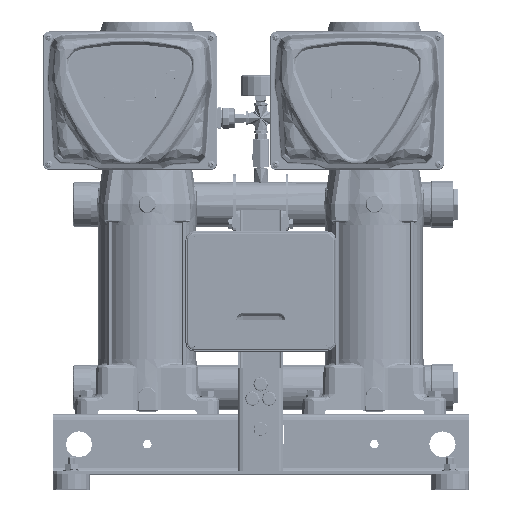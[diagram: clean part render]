
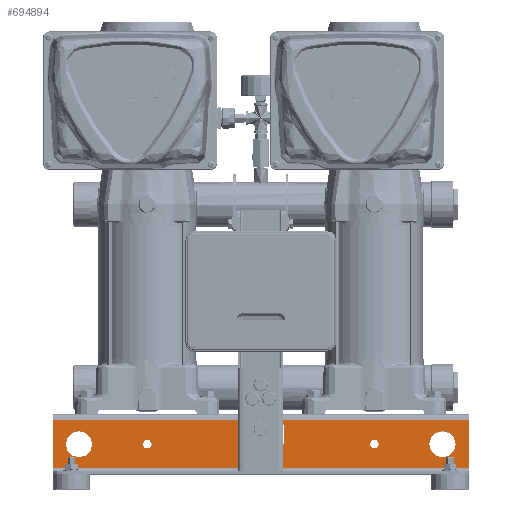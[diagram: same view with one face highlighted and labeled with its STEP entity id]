
A CAD part, top view. The second image highlights one B-rep face of the part: STEP entity #694894.
In plain terms, the highlighted planar face has unit normal (0, 0, 1) as drawn and (0, 0, -1) by its records, which use the part's own axes.
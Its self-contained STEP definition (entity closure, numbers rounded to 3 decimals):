
#688625=DIRECTION('',(1.,0.,0.));
#688626=VECTOR('',#688625,550.);
#688627=CARTESIAN_POINT('',(-275.,-8.,-150.));
#688628=LINE('',#688627,#688626);
#690855=DIRECTION('',(0.,1.,0.));
#690856=VECTOR('',#690855,64.);
#690857=CARTESIAN_POINT('',(-275.,-72.,-150.));
#690858=LINE('',#690857,#690856);
#690876=DIRECTION('',(1.,0.,0.));
#690877=VECTOR('',#690876,550.);
#690878=CARTESIAN_POINT('',(-275.,-72.,-150.));
#690879=LINE('',#690878,#690877);
#690906=DIRECTION('',(0.,1.,0.));
#690907=VECTOR('',#690906,26.);
#690908=CARTESIAN_POINT('',(-26.7,-40.,-150.));
#690909=LINE('',#690908,#690907);
#690913=DIRECTION('',(1.,0.,0.));
#690914=VECTOR('',#690913,3.6);
#690915=CARTESIAN_POINT('',(-30.3,-40.,-150.));
#690916=LINE('',#690915,#690914);
#690920=DIRECTION('',(0.,-1.,0.));
#690921=VECTOR('',#690920,26.);
#690922=CARTESIAN_POINT('',(-30.3,-14.,-150.));
#690923=LINE('',#690922,#690921);
#690927=DIRECTION('',(-1.,0.,0.));
#690928=VECTOR('',#690927,3.6);
#690929=CARTESIAN_POINT('',(-26.7,-14.,-150.));
#690930=LINE('',#690929,#690928);
#690934=DIRECTION('',(0.,1.,0.));
#690935=VECTOR('',#690934,26.);
#690936=CARTESIAN_POINT('',(30.3,-40.,-150.));
#690937=LINE('',#690936,#690935);
#690941=DIRECTION('',(1.,0.,0.));
#690942=VECTOR('',#690941,3.6);
#690943=CARTESIAN_POINT('',(26.7,-40.,-150.));
#690944=LINE('',#690943,#690942);
#690948=DIRECTION('',(0.,-1.,0.));
#690949=VECTOR('',#690948,26.);
#690950=CARTESIAN_POINT('',(26.7,-14.,-150.));
#690951=LINE('',#690950,#690949);
#690955=DIRECTION('',(-1.,0.,0.));
#690956=VECTOR('',#690955,3.6);
#690957=CARTESIAN_POINT('',(30.3,-14.,-150.));
#690958=LINE('',#690957,#690956);
#690962=CARTESIAN_POINT('',(0.,-20.,-150.));
#690963=DIRECTION('',(0.,0.,-1.));
#690964=DIRECTION('',(1.,0.,0.));
#690965=AXIS2_PLACEMENT_3D('',#690962,#690963,#690964);
#690970=CARTESIAN_POINT('',(0.,-20.,-150.));
#690971=DIRECTION('',(0.,0.,-1.));
#690972=DIRECTION('',(-1.,0.,0.));
#690973=AXIS2_PLACEMENT_3D('',#690970,#690971,#690972);
#690978=CARTESIAN_POINT('',(-240.,-40.,-150.));
#690979=DIRECTION('',(0.,0.,1.));
#690980=DIRECTION('',(-1.,0.,0.));
#690981=AXIS2_PLACEMENT_3D('',#690978,#690979,#690980);
#690986=CARTESIAN_POINT('',(-240.,-40.,-150.));
#690987=DIRECTION('',(0.,0.,1.));
#690988=DIRECTION('',(1.,0.,0.));
#690989=AXIS2_PLACEMENT_3D('',#690986,#690987,#690988);
#690994=CARTESIAN_POINT('',(240.,-40.,-150.));
#690995=DIRECTION('',(0.,0.,1.));
#690996=DIRECTION('',(-1.,0.,0.));
#690997=AXIS2_PLACEMENT_3D('',#690994,#690995,#690996);
#691002=CARTESIAN_POINT('',(240.,-40.,-150.));
#691003=DIRECTION('',(0.,0.,1.));
#691004=DIRECTION('',(1.,0.,0.));
#691005=AXIS2_PLACEMENT_3D('',#691002,#691003,#691004);
#691010=CARTESIAN_POINT('',(-150.,-40.,-150.));
#691011=DIRECTION('',(0.,0.,1.));
#691012=DIRECTION('',(1.,0.,0.));
#691013=AXIS2_PLACEMENT_3D('',#691010,#691011,#691012);
#691018=CARTESIAN_POINT('',(-150.,-40.,-150.));
#691019=DIRECTION('',(0.,0.,1.));
#691020=DIRECTION('',(-1.,0.,0.));
#691021=AXIS2_PLACEMENT_3D('',#691018,#691019,#691020);
#691026=CARTESIAN_POINT('',(150.,-40.,-150.));
#691027=DIRECTION('',(0.,0.,-1.));
#691028=DIRECTION('',(-1.,0.,0.));
#691029=AXIS2_PLACEMENT_3D('',#691026,#691027,#691028);
#691034=CARTESIAN_POINT('',(150.,-40.,-150.));
#691035=DIRECTION('',(0.,0.,-1.));
#691036=DIRECTION('',(1.,0.,0.));
#691037=AXIS2_PLACEMENT_3D('',#691034,#691035,#691036);
#691056=DIRECTION('',(0.,1.,0.));
#691057=VECTOR('',#691056,64.);
#691058=CARTESIAN_POINT('',(275.,-72.,-150.));
#691059=LINE('',#691058,#691057);
#692621=CARTESIAN_POINT('',(-275.,-72.,-150.));
#692622=CARTESIAN_POINT('',(-275.,-8.,-150.));
#692623=VERTEX_POINT('',#692621);
#692624=VERTEX_POINT('',#692622);
#692625=CARTESIAN_POINT('',(275.,-72.,-150.));
#692626=CARTESIAN_POINT('',(275.,-8.,-150.));
#692627=VERTEX_POINT('',#692625);
#692628=VERTEX_POINT('',#692626);
#692981=CARTESIAN_POINT('',(-26.7,-40.,-150.));
#692982=CARTESIAN_POINT('',(-26.7,-14.,-150.));
#692983=VERTEX_POINT('',#692981);
#692984=VERTEX_POINT('',#692982);
#692985=CARTESIAN_POINT('',(-30.3,-14.,-150.));
#692986=VERTEX_POINT('',#692985);
#692987=CARTESIAN_POINT('',(-30.3,-40.,-150.));
#692988=VERTEX_POINT('',#692987);
#692989=CARTESIAN_POINT('',(30.3,-40.,-150.));
#692990=CARTESIAN_POINT('',(30.3,-14.,-150.));
#692991=VERTEX_POINT('',#692989);
#692992=VERTEX_POINT('',#692990);
#692993=CARTESIAN_POINT('',(26.7,-14.,-150.));
#692994=VERTEX_POINT('',#692993);
#692995=CARTESIAN_POINT('',(26.7,-40.,-150.));
#692996=VERTEX_POINT('',#692995);
#693013=CARTESIAN_POINT('',(6.25,-20.,-150.));
#693014=CARTESIAN_POINT('',(-6.25,-20.,-150.));
#693015=VERTEX_POINT('',#693013);
#693016=VERTEX_POINT('',#693014);
#693037=CARTESIAN_POINT('',(-257.5,-40.,-150.));
#693038=CARTESIAN_POINT('',(-222.5,-40.,-150.));
#693039=VERTEX_POINT('',#693037);
#693040=VERTEX_POINT('',#693038);
#693041=CARTESIAN_POINT('',(222.5,-40.,-150.));
#693042=CARTESIAN_POINT('',(257.5,-40.,-150.));
#693043=VERTEX_POINT('',#693041);
#693044=VERTEX_POINT('',#693042);
#693137=CARTESIAN_POINT('',(-143.75,-40.,-150.));
#693138=CARTESIAN_POINT('',(-156.25,-40.,-150.));
#693139=VERTEX_POINT('',#693137);
#693140=VERTEX_POINT('',#693138);
#693149=CARTESIAN_POINT('',(143.75,-40.,-150.));
#693151=VERTEX_POINT('',#693149);
#693157=CARTESIAN_POINT('',(156.25,-40.,-150.));
#693159=VERTEX_POINT('',#693157);
#694832=CARTESIAN_POINT('',(-275.,-76.,-150.));
#694833=DIRECTION('',(0.,0.,-1.));
#694834=DIRECTION('',(0.,1.,0.));
#694835=AXIS2_PLACEMENT_3D('',#694832,#694833,#694834);
#694836=PLANE('',#694835);
#694837=ORIENTED_EDGE('',*,*,#694785,.F.);
#694838=ORIENTED_EDGE('',*,*,#694822,.T.);
#694840=ORIENTED_EDGE('',*,*,#694839,.T.);
#694841=ORIENTED_EDGE('',*,*,#693893,.F.);
#694842=EDGE_LOOP('',(#694837,#694838,#694840,#694841));
#694843=FACE_OUTER_BOUND('',#694842,.F.);
#694845=ORIENTED_EDGE('',*,*,#694844,.F.);
#694847=ORIENTED_EDGE('',*,*,#694846,.F.);
#694849=ORIENTED_EDGE('',*,*,#694848,.F.);
#694851=ORIENTED_EDGE('',*,*,#694850,.F.);
#694852=EDGE_LOOP('',(#694845,#694847,#694849,#694851));
#694853=FACE_BOUND('',#694852,.F.);
#694855=ORIENTED_EDGE('',*,*,#694854,.F.);
#694857=ORIENTED_EDGE('',*,*,#694856,.F.);
#694859=ORIENTED_EDGE('',*,*,#694858,.F.);
#694861=ORIENTED_EDGE('',*,*,#694860,.F.);
#694862=EDGE_LOOP('',(#694855,#694857,#694859,#694861));
#694863=FACE_BOUND('',#694862,.F.);
#694865=ORIENTED_EDGE('',*,*,#694864,.T.);
#694867=ORIENTED_EDGE('',*,*,#694866,.T.);
#694868=EDGE_LOOP('',(#694865,#694867));
#694869=FACE_BOUND('',#694868,.F.);
#694871=ORIENTED_EDGE('',*,*,#694870,.F.);
#694873=ORIENTED_EDGE('',*,*,#694872,.F.);
#694874=EDGE_LOOP('',(#694871,#694873));
#694875=FACE_BOUND('',#694874,.F.);
#694877=ORIENTED_EDGE('',*,*,#694876,.F.);
#694879=ORIENTED_EDGE('',*,*,#694878,.F.);
#694880=EDGE_LOOP('',(#694877,#694879));
#694881=FACE_BOUND('',#694880,.F.);
#694883=ORIENTED_EDGE('',*,*,#694882,.F.);
#694885=ORIENTED_EDGE('',*,*,#694884,.F.);
#694886=EDGE_LOOP('',(#694883,#694885));
#694887=FACE_BOUND('',#694886,.F.);
#694889=ORIENTED_EDGE('',*,*,#694888,.T.);
#694891=ORIENTED_EDGE('',*,*,#694890,.T.);
#694892=EDGE_LOOP('',(#694889,#694891));
#694893=FACE_BOUND('',#694892,.F.);
#690966=CIRCLE('',#690965,6.25);
#690974=CIRCLE('',#690973,6.25);
#690982=CIRCLE('',#690981,17.5);
#690990=CIRCLE('',#690989,17.5);
#690998=CIRCLE('',#690997,17.5);
#691006=CIRCLE('',#691005,17.5);
#691014=CIRCLE('',#691013,6.25);
#691022=CIRCLE('',#691021,6.25);
#691030=CIRCLE('',#691029,6.25);
#691038=CIRCLE('',#691037,6.25);
#693893=EDGE_CURVE('',#692624,#692628,#688628,.T.);
#694785=EDGE_CURVE('',#692623,#692624,#690858,.T.);
#694822=EDGE_CURVE('',#692623,#692627,#690879,.T.);
#694839=EDGE_CURVE('',#692627,#692628,#691059,.T.);
#694844=EDGE_CURVE('',#692983,#692984,#690909,.T.);
#694846=EDGE_CURVE('',#692988,#692983,#690916,.T.);
#694848=EDGE_CURVE('',#692986,#692988,#690923,.T.);
#694850=EDGE_CURVE('',#692984,#692986,#690930,.T.);
#694854=EDGE_CURVE('',#692991,#692992,#690937,.T.);
#694856=EDGE_CURVE('',#692996,#692991,#690944,.T.);
#694858=EDGE_CURVE('',#692994,#692996,#690951,.T.);
#694860=EDGE_CURVE('',#692992,#692994,#690958,.T.);
#694864=EDGE_CURVE('',#693015,#693016,#690966,.T.);
#694866=EDGE_CURVE('',#693016,#693015,#690974,.T.);
#694870=EDGE_CURVE('',#693039,#693040,#690982,.T.);
#694872=EDGE_CURVE('',#693040,#693039,#690990,.T.);
#694876=EDGE_CURVE('',#693043,#693044,#690998,.T.);
#694878=EDGE_CURVE('',#693044,#693043,#691006,.T.);
#694882=EDGE_CURVE('',#693139,#693140,#691014,.T.);
#694884=EDGE_CURVE('',#693140,#693139,#691022,.T.);
#694888=EDGE_CURVE('',#693151,#693159,#691030,.T.);
#694890=EDGE_CURVE('',#693159,#693151,#691038,.T.);
#694894=ADVANCED_FACE('',(#694843,#694853,#694863,#694869,#694875,#694881,
#694887,#694893),#694836,.T.);
